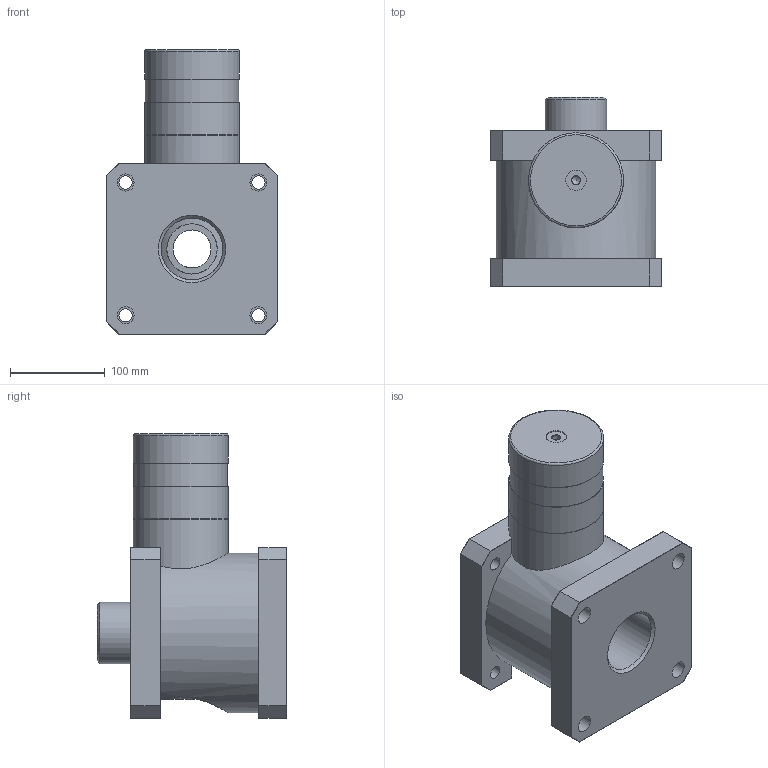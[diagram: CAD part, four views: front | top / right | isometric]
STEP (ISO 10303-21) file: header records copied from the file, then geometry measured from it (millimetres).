
FILE_DESCRIPTION(('STEP AP242'),'1');
FILE_NAME('A.6040 + MA.7160 Feststellpatrone mit Zylinderaufnahme.stp','2026-07-01T13:22:07',(' '),(' '),'Spatial InterOp 3D',' ',' ');
FILE_SCHEMA(('AP242_MANAGED_MODEL_BASED_3D_ENGINEERING_MIM_LF {1 0 10303 442 1 1 4}'));
Length unit declared in the file: millimetre
Products named in the file (3): A.6040 + MA.7160 Feststellpatrone mit Zylinderaufnahme; MA.7160; A.6040 Feststellpatrone
Assembly tree (2 placements, depth 2):
  A.6040 + MA.7160 Feststellpatrone mit Zylinderaufnahme
    MA.7160
    A.6040 Feststellpatrone
Bounding box: 180 x 200 x 300 mm (x, y, z)
Volume: 4797609.6 mm3; surface area: 352438 mm2
Topology: 2 solids, 2 shells, 95 faces, 219 edges, 133 vertices
Faces by surface type: plane 63, cylinder 23, cone 7, torus 2
Full cylindrical faces by diameter (mm): 8.566 x2, 14 x4, 18 x4, 21.5 x1, 40 x2, 53 x2, 65 x2, 98.8 x1, 100 x4, 168 x1
Entity records: 4077 total; most frequent: CARTESIAN_POINT 1065, DIRECTION 422, ORIENTED_EDGE 358, EDGE_CURVE 179, EDGE_LOOP 156, AXIS2_PLACEMENT_3D 151, VERTEX_POINT 126, FACE_OUTER_BOUND 120
